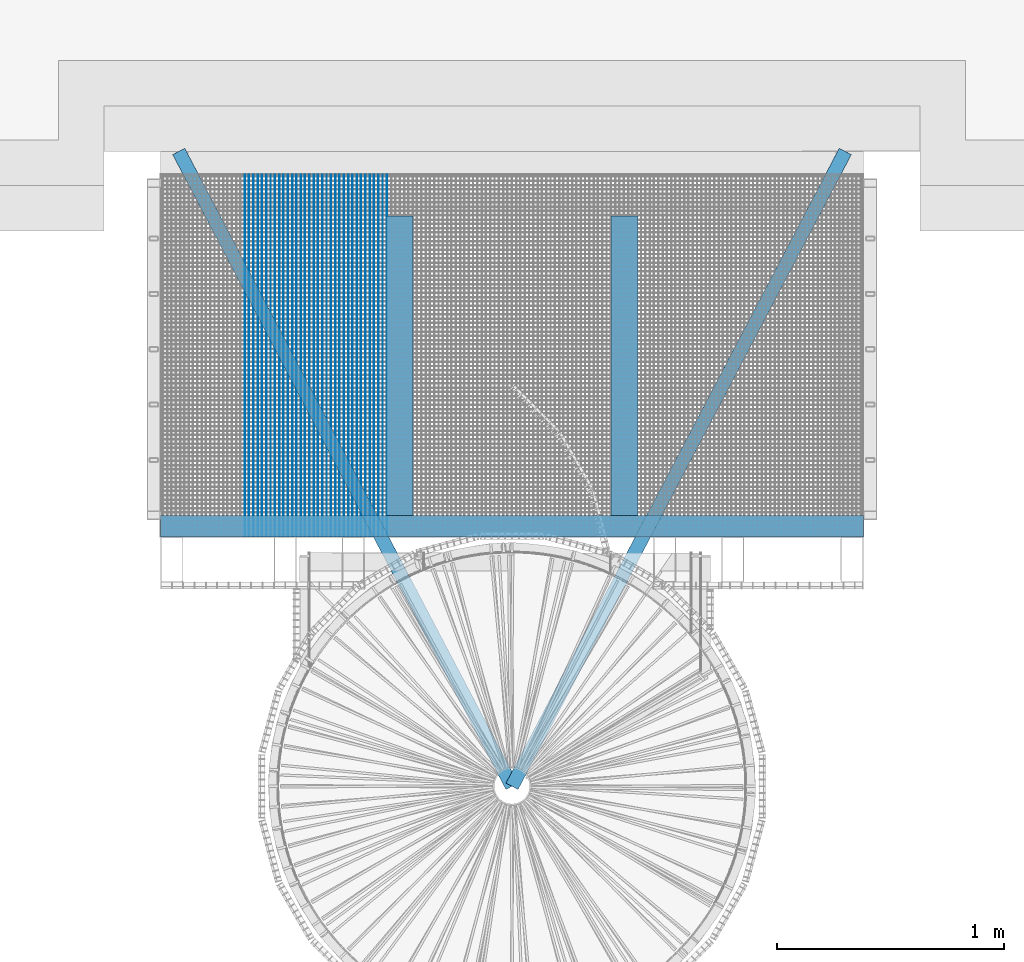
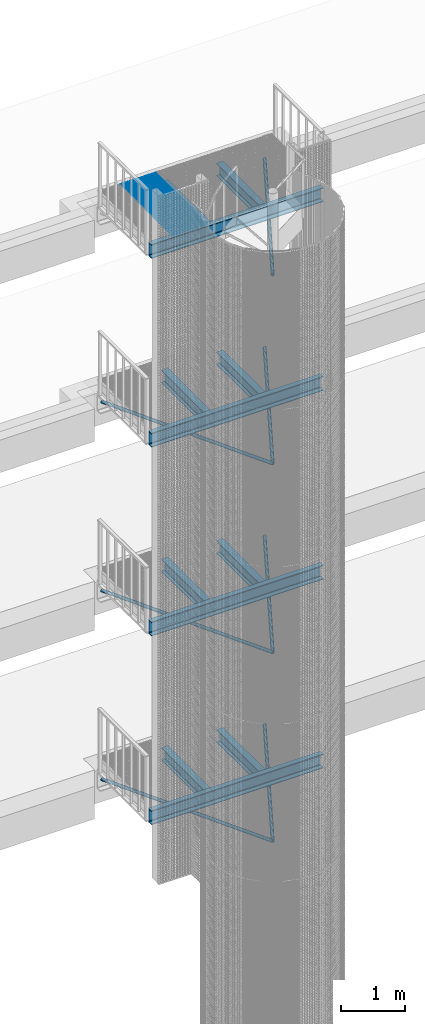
# One storey, part 92 of 1148: 53 beams, 20 elements without a shape of their own.
"""IFC2X3 building model written with IfcOpenShell, lengths in millimetres."""

from ifc_helpers import new_model, si_unit, frame, origin_with_axes, origin_2d_with_axis, place, context, subcontext, project, spatial, rectangle, hollow_circle, i_section, u_section, extrude, material, type_object, element, aggregate, save


model = new_model("IFC2X3")

# Units and contexts
model_context = context("Model", 3, precision=1e-05, world=origin_with_axes())
body_context = subcontext(model_context, "Body", "Model", "MODEL_VIEW")
ifc_project = project(units=[si_unit("LENGTHUNIT", "METRE", prefix="MILLI"), si_unit("AREAUNIT", "SQUARE_METRE"), si_unit("VOLUMEUNIT", "CUBIC_METRE"), si_unit("MASSUNIT", "GRAM", prefix="KILO"), si_unit("TIMEUNIT", "SECOND"), si_unit("PLANEANGLEUNIT", "RADIAN"), si_unit("SOLIDANGLEUNIT", "STERADIAN"), si_unit("THERMODYNAMICTEMPERATUREUNIT", "DEGREE_CELSIUS"), si_unit("LUMINOUSINTENSITYUNIT", "LUMEN")], contexts=[model_context])

# Site, building, storey
site_placement = place(None, origin_with_axes())
site = spatial("IfcSite", under=ifc_project, at=site_placement, Name="Undefined", CompositionType="ELEMENT")
building_placement = place(site_placement, origin_with_axes())
building = spatial("IfcBuilding", under=site, at=building_placement, Name="Undefined", CompositionType="ELEMENT")
storey_placement = place(building_placement, origin_with_axes())
storey = spatial("IfcBuildingStorey", under=building, at=storey_placement, Name="Undefined", CompositionType="ELEMENT", Elevation=0.0)

# Assembly, beams
assembly_1_placement = place(storey_placement, origin_with_axes())
assembly_1 = element("IfcElementAssembly", 1, at=assembly_1_placement, inside=storey, Name="BORDURE", AssemblyPlace="NOTDEFINED", PredefinedType="NOTDEFINED")
ifc_material_1 = material(Name="STEEL/S235JR")
beam_type_1 = type_object("IfcBeamType", Name="PL2*10", PredefinedType="NOTDEFINED")
beam_1_placement = place(assembly_1_placement, frame((20422.1154247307, 1101.99652091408, 17285.0), z_axis=(0.0, 0.0, 1.0), x_axis=(-4.50599999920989e-06, 0.999999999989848, 0.0)))
beam_1 = element("IfcBeam", 2, at=beam_1_placement, type_object=beam_type_1, material=ifc_material_1, Name="ENTRETOISE", context=body_context, shape_type="SweptSolid", body=[
    extrude(rectangle(XDim=2.0, YDim=10.0, at=origin_2d_with_axis()), frame((1596.0000000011, -1.35186458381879e-18, -7.27595761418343e-12), z_axis=(-1.0, 0.0, 0.0), x_axis=(0.0, -1.0, 0.0)), (0.0, 0.0, 1.0), 1596.0),
])
beam_2_placement = place(assembly_1_placement, frame((20441.1154247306, 1101.99661443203, 17285.0), z_axis=(0.0, 0.0, 1.0), x_axis=(-4.50599999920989e-06, 0.999999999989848, 0.0)))
beam_2 = element("IfcBeam", 3, at=beam_2_placement, type_object=beam_type_1, material=ifc_material_1, Name="ENTRETOISE", context=body_context, shape_type="SweptSolid", body=[
    extrude(rectangle(XDim=2.0, YDim=10.0, at=origin_2d_with_axis()), frame((1596.0000000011, -1.35186458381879e-18, -7.27595761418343e-12), z_axis=(-1.0, 0.0, 0.0), x_axis=(0.0, -1.0, 0.0)), (0.0, 0.0, 1.0), 1596.0),
])
beam_3_placement = place(assembly_1_placement, frame((20460.1154247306, 1101.99670794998, 17285.0), z_axis=(0.0, 0.0, 1.0), x_axis=(-4.50599999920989e-06, 0.999999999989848, 0.0)))
beam_3 = element("IfcBeam", 4, at=beam_3_placement, type_object=beam_type_1, material=ifc_material_1, Name="ENTRETOISE", context=body_context, shape_type="SweptSolid", body=[
    extrude(rectangle(XDim=2.0, YDim=10.0, at=origin_2d_with_axis()), frame((1596.0000000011, -1.35186458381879e-18, -7.27595761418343e-12), z_axis=(-1.0, 0.0, 0.0), x_axis=(0.0, -1.0, 0.0)), (0.0, 0.0, 1.0), 1596.0),
])
beam_4_placement = place(assembly_1_placement, frame((20479.1154247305, 1101.99680146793, 17285.0), z_axis=(0.0, 0.0, 1.0), x_axis=(-4.50599999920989e-06, 0.999999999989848, 0.0)))
beam_4 = element("IfcBeam", 5, at=beam_4_placement, type_object=beam_type_1, material=ifc_material_1, Name="ENTRETOISE", context=body_context, shape_type="SweptSolid", body=[
    extrude(rectangle(XDim=2.0, YDim=10.0, at=origin_2d_with_axis()), frame((1596.0000000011, -1.35186458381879e-18, -7.27595761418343e-12), z_axis=(-1.0, 0.0, 0.0), x_axis=(0.0, -1.0, 0.0)), (0.0, 0.0, 1.0), 1596.0),
])
beam_5_placement = place(assembly_1_placement, frame((20498.1154247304, 1101.99689498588, 17285.0), z_axis=(0.0, 0.0, 1.0), x_axis=(-4.50599999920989e-06, 0.999999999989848, 0.0)))
beam_5 = element("IfcBeam", 6, at=beam_5_placement, type_object=beam_type_1, material=ifc_material_1, Name="ENTRETOISE", context=body_context, shape_type="SweptSolid", body=[
    extrude(rectangle(XDim=2.0, YDim=10.0, at=origin_2d_with_axis()), frame((1596.0000000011, -1.35186458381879e-18, -7.27595761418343e-12), z_axis=(-1.0, 0.0, 0.0), x_axis=(0.0, -1.0, 0.0)), (0.0, 0.0, 1.0), 1596.0),
])
beam_6_placement = place(assembly_1_placement, frame((20517.1154247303, 1101.99698850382, 17285.0), z_axis=(0.0, 0.0, 1.0), x_axis=(-4.50599999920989e-06, 0.999999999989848, 0.0)))
beam_6 = element("IfcBeam", 7, at=beam_6_placement, type_object=beam_type_1, material=ifc_material_1, Name="ENTRETOISE", context=body_context, shape_type="SweptSolid", body=[
    extrude(rectangle(XDim=2.0, YDim=10.0, at=origin_2d_with_axis()), frame((1596.0000000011, -1.35186458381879e-18, -7.27595761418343e-12), z_axis=(-1.0, 0.0, 0.0), x_axis=(0.0, -1.0, 0.0)), (0.0, 0.0, 1.0), 1596.0),
])
beam_7_placement = place(assembly_1_placement, frame((20536.1154247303, 1101.99708202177, 17285.0), z_axis=(0.0, 0.0, 1.0), x_axis=(-4.50599999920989e-06, 0.999999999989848, 0.0)))
beam_7 = element("IfcBeam", 8, at=beam_7_placement, type_object=beam_type_1, material=ifc_material_1, Name="ENTRETOISE", context=body_context, shape_type="SweptSolid", body=[
    extrude(rectangle(XDim=2.0, YDim=10.0, at=origin_2d_with_axis()), frame((1596.0000000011, -1.35186458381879e-18, -7.27595761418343e-12), z_axis=(-1.0, 0.0, 0.0), x_axis=(0.0, -1.0, 0.0)), (0.0, 0.0, 1.0), 1596.0),
])
beam_8_placement = place(assembly_1_placement, frame((20555.1154247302, 1101.99717553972, 17285.0), z_axis=(0.0, 0.0, 1.0), x_axis=(-4.50599999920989e-06, 0.999999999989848, 0.0)))
beam_8 = element("IfcBeam", 9, at=beam_8_placement, type_object=beam_type_1, material=ifc_material_1, Name="ENTRETOISE", context=body_context, shape_type="SweptSolid", body=[
    extrude(rectangle(XDim=2.0, YDim=10.0, at=origin_2d_with_axis()), frame((1596.0000000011, -1.35186458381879e-18, -7.27595761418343e-12), z_axis=(-1.0, 0.0, 0.0), x_axis=(0.0, -1.0, 0.0)), (0.0, 0.0, 1.0), 1596.0),
])
beam_9_placement = place(assembly_1_placement, frame((20574.1154247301, 1101.99726905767, 17285.0), z_axis=(0.0, 0.0, 1.0), x_axis=(-4.50599999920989e-06, 0.999999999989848, 0.0)))
beam_9 = element("IfcBeam", 10, at=beam_9_placement, type_object=beam_type_1, material=ifc_material_1, Name="ENTRETOISE", context=body_context, shape_type="SweptSolid", body=[
    extrude(rectangle(XDim=2.0, YDim=10.0, at=origin_2d_with_axis()), frame((1596.0000000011, -1.35186458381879e-18, -7.27595761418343e-12), z_axis=(-1.0, 0.0, 0.0), x_axis=(0.0, -1.0, 0.0)), (0.0, 0.0, 1.0), 1596.0),
])
beam_10_placement = place(assembly_1_placement, frame((20593.1154247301, 1101.99736257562, 17285.0), z_axis=(0.0, 0.0, 1.0), x_axis=(-4.50599999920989e-06, 0.999999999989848, 0.0)))
beam_10 = element("IfcBeam", 11, at=beam_10_placement, type_object=beam_type_1, material=ifc_material_1, Name="ENTRETOISE", context=body_context, shape_type="SweptSolid", body=[
    extrude(rectangle(XDim=2.0, YDim=10.0, at=origin_2d_with_axis()), frame((1596.0000000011, -1.35186458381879e-18, -7.27595761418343e-12), z_axis=(-1.0, 0.0, 0.0), x_axis=(0.0, -1.0, 0.0)), (0.0, 0.0, 1.0), 1596.0),
])
beam_11_placement = place(assembly_1_placement, frame((20612.11542473, 1101.99745609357, 17285.0), z_axis=(0.0, 0.0, 1.0), x_axis=(-4.50599999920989e-06, 0.999999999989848, 0.0)))
beam_11 = element("IfcBeam", 12, at=beam_11_placement, type_object=beam_type_1, material=ifc_material_1, Name="ENTRETOISE", context=body_context, shape_type="SweptSolid", body=[
    extrude(rectangle(XDim=2.0, YDim=10.0, at=origin_2d_with_axis()), frame((1596.0000000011, -1.35186458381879e-18, -7.27595761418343e-12), z_axis=(-1.0, 0.0, 0.0), x_axis=(0.0, -1.0, 0.0)), (0.0, 0.0, 1.0), 1596.0),
])
beam_12_placement = place(assembly_1_placement, frame((20631.1154247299, 1101.99754961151, 17285.0), z_axis=(0.0, 0.0, 1.0), x_axis=(-4.50599999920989e-06, 0.999999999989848, 0.0)))
beam_12 = element("IfcBeam", 13, at=beam_12_placement, type_object=beam_type_1, material=ifc_material_1, Name="ENTRETOISE", context=body_context, shape_type="SweptSolid", body=[
    extrude(rectangle(XDim=2.0, YDim=10.0, at=origin_2d_with_axis()), frame((1596.0000000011, -1.35186458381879e-18, -7.27595761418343e-12), z_axis=(-1.0, 0.0, 0.0), x_axis=(0.0, -1.0, 0.0)), (0.0, 0.0, 1.0), 1596.0),
])
beam_13_placement = place(assembly_1_placement, frame((20650.1154247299, 1101.99764312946, 17285.0), z_axis=(0.0, 0.0, 1.0), x_axis=(-4.50599999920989e-06, 0.999999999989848, 0.0)))
beam_13 = element("IfcBeam", 14, at=beam_13_placement, type_object=beam_type_1, material=ifc_material_1, Name="ENTRETOISE", context=body_context, shape_type="SweptSolid", body=[
    extrude(rectangle(XDim=2.0, YDim=10.0, at=origin_2d_with_axis()), frame((1596.0000000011, -1.35186458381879e-18, -7.27595761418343e-12), z_axis=(-1.0, 0.0, 0.0), x_axis=(0.0, -1.0, 0.0)), (0.0, 0.0, 1.0), 1596.0),
])
beam_14_placement = place(assembly_1_placement, frame((20669.1154247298, 1101.99773664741, 17285.0), z_axis=(0.0, 0.0, 1.0), x_axis=(-4.50599999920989e-06, 0.999999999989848, 0.0)))
beam_14 = element("IfcBeam", 15, at=beam_14_placement, type_object=beam_type_1, material=ifc_material_1, Name="ENTRETOISE", context=body_context, shape_type="SweptSolid", body=[
    extrude(rectangle(XDim=2.0, YDim=10.0, at=origin_2d_with_axis()), frame((1596.0000000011, -1.35186458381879e-18, -7.27595761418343e-12), z_axis=(-1.0, 0.0, 0.0), x_axis=(0.0, -1.0, 0.0)), (0.0, 0.0, 1.0), 1596.0),
])
beam_15_placement = place(assembly_1_placement, frame((20688.1154247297, 1101.99783016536, 17285.0), z_axis=(0.0, 0.0, 1.0), x_axis=(-4.50599999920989e-06, 0.999999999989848, 0.0)))
beam_15 = element("IfcBeam", 16, at=beam_15_placement, type_object=beam_type_1, material=ifc_material_1, Name="ENTRETOISE", context=body_context, shape_type="SweptSolid", body=[
    extrude(rectangle(XDim=2.0, YDim=10.0, at=origin_2d_with_axis()), frame((1596.0000000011, -1.35186458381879e-18, -7.27595761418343e-12), z_axis=(-1.0, 0.0, 0.0), x_axis=(0.0, -1.0, 0.0)), (0.0, 0.0, 1.0), 1596.0),
])
beam_16_placement = place(assembly_1_placement, frame((20707.1154247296, 1101.99792368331, 17285.0), z_axis=(0.0, 0.0, 1.0), x_axis=(-4.50599999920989e-06, 0.999999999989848, 0.0)))
beam_16 = element("IfcBeam", 17, at=beam_16_placement, type_object=beam_type_1, material=ifc_material_1, Name="ENTRETOISE", context=body_context, shape_type="SweptSolid", body=[
    extrude(rectangle(XDim=2.0, YDim=10.0, at=origin_2d_with_axis()), frame((1596.0000000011, -1.35186458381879e-18, -7.27595761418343e-12), z_axis=(-1.0, 0.0, 0.0), x_axis=(0.0, -1.0, 0.0)), (0.0, 0.0, 1.0), 1596.0),
])
beam_17_placement = place(assembly_1_placement, frame((20726.1154247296, 1101.99801720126, 17285.0), z_axis=(0.0, 0.0, 1.0), x_axis=(-4.50599999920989e-06, 0.999999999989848, 0.0)))
beam_17 = element("IfcBeam", 18, at=beam_17_placement, type_object=beam_type_1, material=ifc_material_1, Name="ENTRETOISE", context=body_context, shape_type="SweptSolid", body=[
    extrude(rectangle(XDim=2.0, YDim=10.0, at=origin_2d_with_axis()), frame((1596.0000000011, -1.35186458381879e-18, -7.27595761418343e-12), z_axis=(-1.0, 0.0, 0.0), x_axis=(0.0, -1.0, 0.0)), (0.0, 0.0, 1.0), 1596.0),
])
beam_18_placement = place(assembly_1_placement, frame((20745.1154247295, 1101.99811071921, 17285.0), z_axis=(0.0, 0.0, 1.0), x_axis=(-4.50599999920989e-06, 0.999999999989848, 0.0)))
beam_18 = element("IfcBeam", 19, at=beam_18_placement, type_object=beam_type_1, material=ifc_material_1, Name="ENTRETOISE", context=body_context, shape_type="SweptSolid", body=[
    extrude(rectangle(XDim=2.0, YDim=10.0, at=origin_2d_with_axis()), frame((1596.0000000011, -1.35186458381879e-18, -7.27595761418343e-12), z_axis=(-1.0, 0.0, 0.0), x_axis=(0.0, -1.0, 0.0)), (0.0, 0.0, 1.0), 1596.0),
])
beam_19_placement = place(assembly_1_placement, frame((20764.1154247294, 1101.99820423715, 17285.0), z_axis=(0.0, 0.0, 1.0), x_axis=(-4.50599999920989e-06, 0.999999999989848, 0.0)))
beam_19 = element("IfcBeam", 20, at=beam_19_placement, type_object=beam_type_1, material=ifc_material_1, Name="ENTRETOISE", context=body_context, shape_type="SweptSolid", body=[
    extrude(rectangle(XDim=2.0, YDim=10.0, at=origin_2d_with_axis()), frame((1596.0000000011, -1.35186458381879e-18, -7.27595761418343e-12), z_axis=(-1.0, 0.0, 0.0), x_axis=(0.0, -1.0, 0.0)), (0.0, 0.0, 1.0), 1596.0),
])
beam_20_placement = place(assembly_1_placement, frame((20783.1154247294, 1101.9982977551, 17285.0), z_axis=(0.0, 0.0, 1.0), x_axis=(-4.50599999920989e-06, 0.999999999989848, 0.0)))
beam_20 = element("IfcBeam", 21, at=beam_20_placement, type_object=beam_type_1, material=ifc_material_1, Name="ENTRETOISE", context=body_context, shape_type="SweptSolid", body=[
    extrude(rectangle(XDim=2.0, YDim=10.0, at=origin_2d_with_axis()), frame((1596.0000000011, -1.35186458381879e-18, -7.27595761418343e-12), z_axis=(-1.0, 0.0, 0.0), x_axis=(0.0, -1.0, 0.0)), (0.0, 0.0, 1.0), 1596.0),
])
beam_21_placement = place(assembly_1_placement, frame((20802.1154247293, 1101.99839127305, 17285.0), z_axis=(0.0, 0.0, 1.0), x_axis=(-4.50599999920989e-06, 0.999999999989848, 0.0)))
beam_21 = element("IfcBeam", 22, at=beam_21_placement, type_object=beam_type_1, material=ifc_material_1, Name="ENTRETOISE", context=body_context, shape_type="SweptSolid", body=[
    extrude(rectangle(XDim=2.0, YDim=10.0, at=origin_2d_with_axis()), frame((1596.0000000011, -1.35186458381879e-18, -7.27595761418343e-12), z_axis=(-1.0, 0.0, 0.0), x_axis=(0.0, -1.0, 0.0)), (0.0, 0.0, 1.0), 1596.0),
])
beam_22_placement = place(assembly_1_placement, frame((20821.1154247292, 1101.998484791, 17285.0), z_axis=(0.0, 0.0, 1.0), x_axis=(-4.50599999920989e-06, 0.999999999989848, 0.0)))
beam_22 = element("IfcBeam", 23, at=beam_22_placement, type_object=beam_type_1, material=ifc_material_1, Name="ENTRETOISE", context=body_context, shape_type="SweptSolid", body=[
    extrude(rectangle(XDim=2.0, YDim=10.0, at=origin_2d_with_axis()), frame((1596.0000000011, -1.35186458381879e-18, -7.27595761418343e-12), z_axis=(-1.0, 0.0, 0.0), x_axis=(0.0, -1.0, 0.0)), (0.0, 0.0, 1.0), 1596.0),
])
beam_23_placement = place(assembly_1_placement, frame((20840.1154247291, 1101.99857830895, 17285.0), z_axis=(0.0, 0.0, 1.0), x_axis=(-4.50599999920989e-06, 0.999999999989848, 0.0)))
beam_23 = element("IfcBeam", 24, at=beam_23_placement, type_object=beam_type_1, material=ifc_material_1, Name="ENTRETOISE", context=body_context, shape_type="SweptSolid", body=[
    extrude(rectangle(XDim=2.0, YDim=10.0, at=origin_2d_with_axis()), frame((1596.0000000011, -1.35186458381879e-18, -7.27595761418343e-12), z_axis=(-1.0, 0.0, 0.0), x_axis=(0.0, -1.0, 0.0)), (0.0, 0.0, 1.0), 1596.0),
])
beam_24_placement = place(assembly_1_placement, frame((20859.1154247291, 1101.9986718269, 17285.0), z_axis=(0.0, 0.0, 1.0), x_axis=(-4.50599999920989e-06, 0.999999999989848, 0.0)))
beam_24 = element("IfcBeam", 25, at=beam_24_placement, type_object=beam_type_1, material=ifc_material_1, Name="ENTRETOISE", context=body_context, shape_type="SweptSolid", body=[
    extrude(rectangle(XDim=2.0, YDim=10.0, at=origin_2d_with_axis()), frame((1596.0000000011, -1.35186458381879e-18, -7.27595761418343e-12), z_axis=(-1.0, 0.0, 0.0), x_axis=(0.0, -1.0, 0.0)), (0.0, 0.0, 1.0), 1596.0),
])
beam_25_placement = place(assembly_1_placement, frame((20878.115424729, 1101.99876534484, 17285.0), z_axis=(0.0, 0.0, 1.0), x_axis=(-4.50599999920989e-06, 0.999999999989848, 0.0)))
beam_25 = element("IfcBeam", 26, at=beam_25_placement, type_object=beam_type_1, material=ifc_material_1, Name="ENTRETOISE", context=body_context, shape_type="SweptSolid", body=[
    extrude(rectangle(XDim=2.0, YDim=10.0, at=origin_2d_with_axis()), frame((1596.0000000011, -1.35186458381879e-18, -7.27595761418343e-12), z_axis=(-1.0, 0.0, 0.0), x_axis=(0.0, -1.0, 0.0)), (0.0, 0.0, 1.0), 1596.0),
])
beam_26_placement = place(assembly_1_placement, frame((20897.1154247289, 1101.99885886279, 17285.0), z_axis=(0.0, 0.0, 1.0), x_axis=(-4.50599999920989e-06, 0.999999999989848, 0.0)))
beam_26 = element("IfcBeam", 27, at=beam_26_placement, type_object=beam_type_1, material=ifc_material_1, Name="ENTRETOISE", context=body_context, shape_type="SweptSolid", body=[
    extrude(rectangle(XDim=2.0, YDim=10.0, at=origin_2d_with_axis()), frame((1596.0000000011, -1.35186458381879e-18, -7.27595761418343e-12), z_axis=(-1.0, 0.0, 0.0), x_axis=(0.0, -1.0, 0.0)), (0.0, 0.0, 1.0), 1596.0),
])
beam_27_placement = place(assembly_1_placement, frame((20916.1154247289, 1101.99895238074, 17285.0), z_axis=(0.0, 0.0, 1.0), x_axis=(-4.50599999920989e-06, 0.999999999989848, 0.0)))
beam_27 = element("IfcBeam", 28, at=beam_27_placement, type_object=beam_type_1, material=ifc_material_1, Name="ENTRETOISE", context=body_context, shape_type="SweptSolid", body=[
    extrude(rectangle(XDim=2.0, YDim=10.0, at=origin_2d_with_axis()), frame((1596.0000000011, -1.35186458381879e-18, -7.27595761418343e-12), z_axis=(-1.0, 0.0, 0.0), x_axis=(0.0, -1.0, 0.0)), (0.0, 0.0, 1.0), 1596.0),
])
beam_28_placement = place(assembly_1_placement, frame((20935.1154247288, 1101.99904589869, 17285.0), z_axis=(0.0, 0.0, 1.0), x_axis=(-4.50599999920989e-06, 0.999999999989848, 0.0)))
beam_28 = element("IfcBeam", 29, at=beam_28_placement, type_object=beam_type_1, material=ifc_material_1, Name="ENTRETOISE", context=body_context, shape_type="SweptSolid", body=[
    extrude(rectangle(XDim=2.0, YDim=10.0, at=origin_2d_with_axis()), frame((1596.0000000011, -1.35186458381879e-18, -7.27595761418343e-12), z_axis=(-1.0, 0.0, 0.0), x_axis=(0.0, -1.0, 0.0)), (0.0, 0.0, 1.0), 1596.0),
])
beam_29_placement = place(assembly_1_placement, frame((20954.1154247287, 1101.99913941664, 17285.0), z_axis=(0.0, 0.0, 1.0), x_axis=(-4.50599999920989e-06, 0.999999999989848, 0.0)))
beam_29 = element("IfcBeam", 30, at=beam_29_placement, type_object=beam_type_1, material=ifc_material_1, Name="ENTRETOISE", context=body_context, shape_type="SweptSolid", body=[
    extrude(rectangle(XDim=2.0, YDim=10.0, at=origin_2d_with_axis()), frame((1596.0000000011, -1.35186458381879e-18, -7.27595761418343e-12), z_axis=(-1.0, 0.0, 0.0), x_axis=(0.0, -1.0, 0.0)), (0.0, 0.0, 1.0), 1596.0),
])
beam_30_placement = place(assembly_1_placement, frame((20973.1154247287, 1101.99923293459, 17285.0), z_axis=(0.0, 0.0, 1.0), x_axis=(-4.50599999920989e-06, 0.999999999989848, 0.0)))
beam_30 = element("IfcBeam", 31, at=beam_30_placement, type_object=beam_type_1, material=ifc_material_1, Name="ENTRETOISE", context=body_context, shape_type="SweptSolid", body=[
    extrude(rectangle(XDim=2.0, YDim=10.0, at=origin_2d_with_axis()), frame((1596.0000000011, -1.35186458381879e-18, -7.27595761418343e-12), z_axis=(-1.0, 0.0, 0.0), x_axis=(0.0, -1.0, 0.0)), (0.0, 0.0, 1.0), 1596.0),
])
beam_31_placement = place(assembly_1_placement, frame((20992.1154247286, 1101.99932645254, 17285.0), z_axis=(0.0, 0.0, 1.0), x_axis=(-4.50599999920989e-06, 0.999999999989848, 0.0)))
beam_31 = element("IfcBeam", 32, at=beam_31_placement, type_object=beam_type_1, material=ifc_material_1, Name="ENTRETOISE", context=body_context, shape_type="SweptSolid", body=[
    extrude(rectangle(XDim=2.0, YDim=10.0, at=origin_2d_with_axis()), frame((1596.0000000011, -1.35186458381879e-18, -7.27595761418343e-12), z_axis=(-1.0, 0.0, 0.0), x_axis=(0.0, -1.0, 0.0)), (0.0, 0.0, 1.0), 1596.0),
])
beam_32_placement = place(assembly_1_placement, frame((21011.1154247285, 1101.99941997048, 17285.0), z_axis=(0.0, 0.0, 1.0), x_axis=(-4.50599999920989e-06, 0.999999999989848, 0.0)))
beam_32 = element("IfcBeam", 33, at=beam_32_placement, type_object=beam_type_1, material=ifc_material_1, Name="ENTRETOISE", context=body_context, shape_type="SweptSolid", body=[
    extrude(rectangle(XDim=2.0, YDim=10.0, at=origin_2d_with_axis()), frame((1596.0000000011, -1.35186458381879e-18, -7.27595761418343e-12), z_axis=(-1.0, 0.0, 0.0), x_axis=(0.0, -1.0, 0.0)), (0.0, 0.0, 1.0), 1596.0),
])
beam_33_placement = place(assembly_1_placement, frame((21030.1154247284, 1101.99951348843, 17285.0), z_axis=(0.0, 0.0, 1.0), x_axis=(-4.50599999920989e-06, 0.999999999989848, 0.0)))
beam_33 = element("IfcBeam", 34, at=beam_33_placement, type_object=beam_type_1, material=ifc_material_1, Name="ENTRETOISE", context=body_context, shape_type="SweptSolid", body=[
    extrude(rectangle(XDim=2.0, YDim=10.0, at=origin_2d_with_axis()), frame((1596.0000000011, -1.35186458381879e-18, -7.27595761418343e-12), z_axis=(-1.0, 0.0, 0.0), x_axis=(0.0, -1.0, 0.0)), (0.0, 0.0, 1.0), 1596.0),
])
beam_34_placement = place(assembly_1_placement, frame((21049.1154247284, 1101.99960700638, 17285.0), z_axis=(0.0, 0.0, 1.0), x_axis=(-4.50599999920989e-06, 0.999999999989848, 0.0)))
beam_34 = element("IfcBeam", 35, at=beam_34_placement, type_object=beam_type_1, material=ifc_material_1, Name="ENTRETOISE", context=body_context, shape_type="SweptSolid", body=[
    extrude(rectangle(XDim=2.0, YDim=10.0, at=origin_2d_with_axis()), frame((1596.0000000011, -1.35186458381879e-18, -7.27595761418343e-12), z_axis=(-1.0, 0.0, 0.0), x_axis=(0.0, -1.0, 0.0)), (0.0, 0.0, 1.0), 1596.0),
])
aggregate(assembly_1, [beam_1, beam_2, beam_3, beam_4, beam_5, beam_6, beam_7, beam_8, beam_9, beam_10, beam_11, beam_12, beam_13, beam_14, beam_15, beam_16, beam_17, beam_18, beam_19, beam_20, beam_21, beam_22, beam_23, beam_24, beam_25, beam_26, beam_27, beam_28, beam_29, beam_30, beam_31, beam_32, beam_33, beam_34])

# Assembly, beam
assembly_2_placement = place(storey_placement, origin_with_axes())
assembly_2 = element("IfcElementAssembly", 36, at=assembly_2_placement, inside=storey, AssemblyPlace="NOTDEFINED", PredefinedType="NOTDEFINED")
ifc_material_2 = material(Name="STEEL/S275JR")
beam_type_2 = type_object("IfcBeamType", Name="TUBE-60.3*5", PredefinedType="NOTDEFINED")
beam_35_placement = place(assembly_2_placement, frame((21600.0399999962, -0.239999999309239, 16790.0), z_axis=(0.0, 0.0, 1.0), x_axis=(0.464816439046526, 0.885407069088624, 0.0)))
beam_35 = element("IfcBeam", 37, at=beam_35_placement, type_object=beam_type_2, material=ifc_material_2, Name="BUTON", context=body_context, shape_type="SweptSolid", body=[
    extrude(hollow_circle(Radius=30.14999962, WallThickness=5.0, at=origin_2d_with_axis()), frame((3162.38211154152, 0.0, 0.0), z_axis=(-1.0, 0.0, 0.0), x_axis=(0.0, -1.0, 0.0)), (0.0, 0.0, 1.0), 3162.38),
])
aggregate(assembly_2, [beam_35])

assembly_3_placement = place(storey_placement, origin_with_axes())
assembly_3 = element("IfcElementAssembly", 38, at=assembly_3_placement, inside=storey, AssemblyPlace="NOTDEFINED", PredefinedType="NOTDEFINED")
beam_36_placement = place(assembly_3_placement, frame((21600.0399999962, -0.159999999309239, 13190.0), z_axis=(0.0, 0.0, 1.0), x_axis=(0.464816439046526, 0.885407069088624, 0.0)))
beam_36 = element("IfcBeam", 39, at=beam_36_placement, type_object=beam_type_2, material=ifc_material_2, Name="BUTON", context=body_context, shape_type="SweptSolid", body=[
    extrude(hollow_circle(Radius=30.14999962, WallThickness=5.0, at=origin_2d_with_axis()), frame((3162.38211154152, 0.0, 0.0), z_axis=(-1.0, 0.0, 0.0), x_axis=(0.0, -1.0, 0.0)), (0.0, 0.0, 1.0), 3162.38),
])
aggregate(assembly_3, [beam_36])

assembly_4_placement = place(storey_placement, origin_with_axes())
assembly_4 = element("IfcElementAssembly", 40, at=assembly_4_placement, inside=storey, AssemblyPlace="NOTDEFINED", PredefinedType="NOTDEFINED")
beam_37_placement = place(assembly_4_placement, frame((21600.0399999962, -0.159999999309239, 13190.0), z_axis=(0.0, 0.0, 1.0), x_axis=(-0.464816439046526, 0.885407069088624, 0.0)))
beam_37 = element("IfcBeam", 41, at=beam_37_placement, type_object=beam_type_2, material=ifc_material_2, Name="BUTON", context=body_context, shape_type="SweptSolid", body=[
    extrude(hollow_circle(Radius=30.14999962, WallThickness=5.0, at=origin_2d_with_axis()), frame((3162.38211154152, 0.0, 0.0), z_axis=(-1.0, 0.0, 0.0), x_axis=(0.0, -1.0, 0.0)), (0.0, 0.0, 1.0), 3162.38),
])
aggregate(assembly_4, [beam_37])

assembly_5_placement = place(storey_placement, origin_with_axes())
assembly_5 = element("IfcElementAssembly", 42, at=assembly_5_placement, inside=storey, AssemblyPlace="NOTDEFINED", PredefinedType="NOTDEFINED")
beam_38_placement = place(assembly_5_placement, frame((21600.0399999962, -0.0799999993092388, 9590.0), z_axis=(0.0, 0.0, 1.0), x_axis=(0.464816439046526, 0.885407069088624, 0.0)))
beam_38 = element("IfcBeam", 43, at=beam_38_placement, type_object=beam_type_2, material=ifc_material_2, Name="BUTON", context=body_context, shape_type="SweptSolid", body=[
    extrude(hollow_circle(Radius=30.14999962, WallThickness=5.0, at=origin_2d_with_axis()), frame((3162.38211154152, 0.0, 0.0), z_axis=(-1.0, 0.0, 0.0), x_axis=(0.0, -1.0, 0.0)), (0.0, 0.0, 1.0), 3162.38),
])
aggregate(assembly_5, [beam_38])

assembly_6_placement = place(storey_placement, origin_with_axes())
assembly_6 = element("IfcElementAssembly", 44, at=assembly_6_placement, inside=storey, AssemblyPlace="NOTDEFINED", PredefinedType="NOTDEFINED")
beam_39_placement = place(assembly_6_placement, frame((21600.0399999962, -0.0799999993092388, 9590.0), z_axis=(0.0, 0.0, 1.0), x_axis=(-0.464816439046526, 0.885407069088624, 0.0)))
beam_39 = element("IfcBeam", 45, at=beam_39_placement, type_object=beam_type_2, material=ifc_material_2, Name="BUTON", context=body_context, shape_type="SweptSolid", body=[
    extrude(hollow_circle(Radius=30.14999962, WallThickness=5.0, at=origin_2d_with_axis()), frame((3162.38211154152, 0.0, 0.0), z_axis=(-1.0, 0.0, 0.0), x_axis=(0.0, -1.0, 0.0)), (0.0, 0.0, 1.0), 3162.38),
])
aggregate(assembly_6, [beam_39])

assembly_7_placement = place(storey_placement, origin_with_axes())
assembly_7 = element("IfcElementAssembly", 46, at=assembly_7_placement, inside=storey, AssemblyPlace="NOTDEFINED", PredefinedType="NOTDEFINED")
beam_40_placement = place(assembly_7_placement, frame((21600.0399999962, 6.90761225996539e-10, 5990.0), z_axis=(0.0, 0.0, 1.0), x_axis=(0.464816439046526, 0.885407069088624, 0.0)))
beam_40 = element("IfcBeam", 47, at=beam_40_placement, type_object=beam_type_2, material=ifc_material_2, Name="BUTON", context=body_context, shape_type="SweptSolid", body=[
    extrude(hollow_circle(Radius=30.14999962, WallThickness=5.0, at=origin_2d_with_axis()), frame((3162.38211154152, 0.0, 0.0), z_axis=(-1.0, 0.0, 0.0), x_axis=(0.0, -1.0, 0.0)), (0.0, 0.0, 1.0), 3162.38),
])
aggregate(assembly_7, [beam_40])

assembly_8_placement = place(storey_placement, origin_with_axes())
assembly_8 = element("IfcElementAssembly", 48, at=assembly_8_placement, inside=storey, AssemblyPlace="NOTDEFINED", PredefinedType="NOTDEFINED")
beam_41_placement = place(assembly_8_placement, frame((21600.0399999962, 6.90761225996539e-10, 5990.0), z_axis=(0.0, 0.0, 1.0), x_axis=(-0.464816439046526, 0.885407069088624, 0.0)))
beam_41 = element("IfcBeam", 49, at=beam_41_placement, type_object=beam_type_2, material=ifc_material_2, Name="BUTON", context=body_context, shape_type="SweptSolid", body=[
    extrude(hollow_circle(Radius=30.14999962, WallThickness=5.0, at=origin_2d_with_axis()), frame((3162.38211154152, 0.0, 0.0), z_axis=(-1.0, 0.0, 0.0), x_axis=(0.0, -1.0, 0.0)), (0.0, 0.0, 1.0), 3162.38),
])
aggregate(assembly_8, [beam_41])

assembly_9_placement = place(storey_placement, origin_with_axes())
assembly_9 = element("IfcElementAssembly", 50, at=assembly_9_placement, inside=storey, AssemblyPlace="NOTDEFINED", PredefinedType="NOTDEFINED")
beam_type_3 = type_object("IfcBeamType", Name="IPE240", PredefinedType="NOTDEFINED")
beam_42_placement = place(assembly_9_placement, frame((21103.4504345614, 1195.00994809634, 17120.0), z_axis=(0.0, 0.0, 1.0), x_axis=(-4.50599999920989e-06, 0.999999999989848, 0.0)))
beam_42 = element("IfcBeam", 51, at=beam_42_placement, type_object=beam_type_3, material=ifc_material_1, Name="EXISTANTS", context=body_context, shape_type="SweptSolid", body=[
    extrude(i_section(OverallWidth=120.0, OverallDepth=240.0, WebThickness=6.199999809, FlangeThickness=9.800000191, FilletRadius=15.0, at=origin_2d_with_axis()), frame((1319.99832798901, 0.0, -3.63797880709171e-12), z_axis=(-1.0, 0.0, 0.0), x_axis=(0.0, -1.0, 0.0)), (0.0, 0.0, 1.0), 1320.0),
])
aggregate(assembly_9, [beam_42])

assembly_10_placement = place(storey_placement, origin_with_axes())
assembly_10 = element("IfcElementAssembly", 52, at=assembly_10_placement, inside=storey, AssemblyPlace="NOTDEFINED", PredefinedType="NOTDEFINED")
beam_43_placement = place(assembly_10_placement, frame((22096.7804345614, 1195.00994809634, 17120.0), z_axis=(0.0, 0.0, 1.0), x_axis=(-4.50599999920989e-06, 0.999999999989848, 0.0)))
beam_43 = element("IfcBeam", 53, at=beam_43_placement, type_object=beam_type_3, material=ifc_material_1, Name="EXISTANTS", context=body_context, shape_type="SweptSolid", body=[
    extrude(i_section(OverallWidth=120.0, OverallDepth=240.0, WebThickness=6.199999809, FlangeThickness=9.800000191, FilletRadius=15.0, at=origin_2d_with_axis()), frame((1319.99832798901, 0.0, -3.63797880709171e-12), z_axis=(-1.0, 0.0, 0.0), x_axis=(0.0, -1.0, 0.0)), (0.0, 0.0, 1.0), 1320.0),
])
aggregate(assembly_10, [beam_43])

assembly_11_placement = place(storey_placement, origin_with_axes())
assembly_11 = element("IfcElementAssembly", 54, at=assembly_11_placement, inside=storey, AssemblyPlace="NOTDEFINED", PredefinedType="NOTDEFINED")
beam_44_placement = place(assembly_11_placement, frame((21103.4504345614, 1195.00994809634, 13520.0), z_axis=(0.0, 0.0, 1.0), x_axis=(-4.50599999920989e-06, 0.999999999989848, 0.0)))
beam_44 = element("IfcBeam", 55, at=beam_44_placement, type_object=beam_type_3, material=ifc_material_1, Name="EXISTANTS", context=body_context, shape_type="SweptSolid", body=[
    extrude(i_section(OverallWidth=120.0, OverallDepth=240.0, WebThickness=6.199999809, FlangeThickness=9.800000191, FilletRadius=15.0, at=origin_2d_with_axis()), frame((1319.99832798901, 0.0, -3.63797880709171e-12), z_axis=(-1.0, 0.0, 0.0), x_axis=(0.0, -1.0, 0.0)), (0.0, 0.0, 1.0), 1320.0),
])
aggregate(assembly_11, [beam_44])

assembly_12_placement = place(storey_placement, origin_with_axes())
assembly_12 = element("IfcElementAssembly", 56, at=assembly_12_placement, inside=storey, AssemblyPlace="NOTDEFINED", PredefinedType="NOTDEFINED")
beam_45_placement = place(assembly_12_placement, frame((22096.7804345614, 1195.00994809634, 13520.0), z_axis=(0.0, 0.0, 1.0), x_axis=(-4.50599999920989e-06, 0.999999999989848, 0.0)))
beam_45 = element("IfcBeam", 57, at=beam_45_placement, type_object=beam_type_3, material=ifc_material_1, Name="EXISTANTS", context=body_context, shape_type="SweptSolid", body=[
    extrude(i_section(OverallWidth=120.0, OverallDepth=240.0, WebThickness=6.199999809, FlangeThickness=9.800000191, FilletRadius=15.0, at=origin_2d_with_axis()), frame((1319.99832798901, 0.0, -3.63797880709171e-12), z_axis=(-1.0, 0.0, 0.0), x_axis=(0.0, -1.0, 0.0)), (0.0, 0.0, 1.0), 1320.0),
])
aggregate(assembly_12, [beam_45])

assembly_13_placement = place(storey_placement, origin_with_axes())
assembly_13 = element("IfcElementAssembly", 58, at=assembly_13_placement, inside=storey, AssemblyPlace="NOTDEFINED", PredefinedType="NOTDEFINED")
beam_46_placement = place(assembly_13_placement, frame((21103.4504345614, 1195.00994809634, 9920.0), z_axis=(0.0, 0.0, 1.0), x_axis=(-4.50599999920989e-06, 0.999999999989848, 0.0)))
beam_46 = element("IfcBeam", 59, at=beam_46_placement, type_object=beam_type_3, material=ifc_material_1, Name="EXISTANTS", context=body_context, shape_type="SweptSolid", body=[
    extrude(i_section(OverallWidth=120.0, OverallDepth=240.0, WebThickness=6.199999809, FlangeThickness=9.800000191, FilletRadius=15.0, at=origin_2d_with_axis()), frame((1319.99832798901, 0.0, -3.63797880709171e-12), z_axis=(-1.0, 0.0, 0.0), x_axis=(0.0, -1.0, 0.0)), (0.0, 0.0, 1.0), 1320.0),
])
aggregate(assembly_13, [beam_46])

assembly_14_placement = place(storey_placement, origin_with_axes())
assembly_14 = element("IfcElementAssembly", 60, at=assembly_14_placement, inside=storey, AssemblyPlace="NOTDEFINED", PredefinedType="NOTDEFINED")
beam_47_placement = place(assembly_14_placement, frame((22096.7804345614, 1195.00994809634, 9920.0), z_axis=(0.0, 0.0, 1.0), x_axis=(-4.50599999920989e-06, 0.999999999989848, 0.0)))
beam_47 = element("IfcBeam", 61, at=beam_47_placement, type_object=beam_type_3, material=ifc_material_1, Name="EXISTANTS", context=body_context, shape_type="SweptSolid", body=[
    extrude(i_section(OverallWidth=120.0, OverallDepth=240.0, WebThickness=6.199999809, FlangeThickness=9.800000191, FilletRadius=15.0, at=origin_2d_with_axis()), frame((1319.99832798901, 0.0, -3.63797880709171e-12), z_axis=(-1.0, 0.0, 0.0), x_axis=(0.0, -1.0, 0.0)), (0.0, 0.0, 1.0), 1320.0),
])
aggregate(assembly_14, [beam_47])

assembly_15_placement = place(storey_placement, origin_with_axes())
assembly_15 = element("IfcElementAssembly", 62, at=assembly_15_placement, inside=storey, AssemblyPlace="NOTDEFINED", PredefinedType="NOTDEFINED")
beam_48_placement = place(assembly_15_placement, frame((21103.4504345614, 1195.00994809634, 6320.0), z_axis=(0.0, 0.0, 1.0), x_axis=(-4.50599999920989e-06, 0.999999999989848, 0.0)))
beam_48 = element("IfcBeam", 63, at=beam_48_placement, type_object=beam_type_3, material=ifc_material_1, Name="EXISTANTS", context=body_context, shape_type="SweptSolid", body=[
    extrude(i_section(OverallWidth=120.0, OverallDepth=240.0, WebThickness=6.199999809, FlangeThickness=9.800000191, FilletRadius=15.0, at=origin_2d_with_axis()), frame((1319.99832798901, 0.0, -3.63797880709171e-12), z_axis=(-1.0, 0.0, 0.0), x_axis=(0.0, -1.0, 0.0)), (0.0, 0.0, 1.0), 1320.0),
])
aggregate(assembly_15, [beam_48])

assembly_16_placement = place(storey_placement, origin_with_axes())
assembly_16 = element("IfcElementAssembly", 64, at=assembly_16_placement, inside=storey, AssemblyPlace="NOTDEFINED", PredefinedType="NOTDEFINED")
beam_49_placement = place(assembly_16_placement, frame((22096.7804345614, 1195.00994809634, 6320.0), z_axis=(0.0, 0.0, 1.0), x_axis=(-4.50599999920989e-06, 0.999999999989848, 0.0)))
beam_49 = element("IfcBeam", 65, at=beam_49_placement, type_object=beam_type_3, material=ifc_material_1, Name="EXISTANTS", context=body_context, shape_type="SweptSolid", body=[
    extrude(i_section(OverallWidth=120.0, OverallDepth=240.0, WebThickness=6.199999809, FlangeThickness=9.800000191, FilletRadius=15.0, at=origin_2d_with_axis()), frame((1319.99832798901, 0.0, -3.63797880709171e-12), z_axis=(-1.0, 0.0, 0.0), x_axis=(0.0, -1.0, 0.0)), (0.0, 0.0, 1.0), 1320.0),
])
aggregate(assembly_16, [beam_49])

assembly_17_placement = place(storey_placement, origin_with_axes())
assembly_17 = element("IfcElementAssembly", 66, at=assembly_17_placement, inside=storey, AssemblyPlace="NOTDEFINED", PredefinedType="NOTDEFINED")
beam_type_4 = type_object("IfcBeamType", Name="UPE270", PredefinedType="NOTDEFINED")
beam_50_placement = place(assembly_17_placement, frame((20050.119356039, 1147.49468994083, 17105.0), z_axis=(0.0, 0.0, 1.0), x_axis=(0.999999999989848, 4.50600000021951e-06, 0.0)))
beam_50 = element("IfcBeam", 67, at=beam_50_placement, type_object=beam_type_4, material=ifc_material_1, Name="EXISTANTS", context=body_context, shape_type="SweptSolid", body=[
    extrude(u_section(Depth=270.0, FlangeWidth=95.0, WebThickness=7.5, FlangeThickness=13.5, FilletRadius=15.0, at=origin_2d_with_axis()), frame((3099.99084151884, -4.54747022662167e-13, 3.63797880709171e-12), z_axis=(-1.0, 0.0, 0.0), x_axis=(0.0, -1.0, 0.0)), (0.0, 0.0, 1.0), 3099.99),
])
aggregate(assembly_17, [beam_50])

assembly_18_placement = place(storey_placement, origin_with_axes())
assembly_18 = element("IfcElementAssembly", 68, at=assembly_18_placement, inside=storey, AssemblyPlace="NOTDEFINED", PredefinedType="NOTDEFINED")
beam_51_placement = place(assembly_18_placement, frame((20050.119356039, 1147.49468994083, 13505.0), z_axis=(0.0, 0.0, 1.0), x_axis=(0.999999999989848, 4.50600000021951e-06, 0.0)))
beam_51 = element("IfcBeam", 69, at=beam_51_placement, type_object=beam_type_4, material=ifc_material_1, Name="EXISTANTS", context=body_context, shape_type="SweptSolid", body=[
    extrude(u_section(Depth=270.0, FlangeWidth=95.0, WebThickness=7.5, FlangeThickness=13.5, FilletRadius=15.0, at=origin_2d_with_axis()), frame((3099.99084151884, -4.54747022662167e-13, 3.63797880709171e-12), z_axis=(-1.0, 0.0, 0.0), x_axis=(0.0, -1.0, 0.0)), (0.0, 0.0, 1.0), 3099.99),
])
aggregate(assembly_18, [beam_51])

assembly_19_placement = place(storey_placement, origin_with_axes())
assembly_19 = element("IfcElementAssembly", 70, at=assembly_19_placement, inside=storey, AssemblyPlace="NOTDEFINED", PredefinedType="NOTDEFINED")
beam_52_placement = place(assembly_19_placement, frame((20050.119356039, 1147.49468994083, 9905.0), z_axis=(0.0, 0.0, 1.0), x_axis=(0.999999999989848, 4.50600000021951e-06, 0.0)))
beam_52 = element("IfcBeam", 71, at=beam_52_placement, type_object=beam_type_4, material=ifc_material_1, Name="EXISTANTS", context=body_context, shape_type="SweptSolid", body=[
    extrude(u_section(Depth=270.0, FlangeWidth=95.0, WebThickness=7.5, FlangeThickness=13.5, FilletRadius=15.0, at=origin_2d_with_axis()), frame((3099.99084151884, -4.54747022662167e-13, 3.63797880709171e-12), z_axis=(-1.0, 0.0, 0.0), x_axis=(0.0, -1.0, 0.0)), (0.0, 0.0, 1.0), 3099.99),
])
aggregate(assembly_19, [beam_52])

assembly_20_placement = place(storey_placement, origin_with_axes())
assembly_20 = element("IfcElementAssembly", 72, at=assembly_20_placement, inside=storey, AssemblyPlace="NOTDEFINED", PredefinedType="NOTDEFINED")
beam_53_placement = place(assembly_20_placement, frame((20050.119356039, 1147.49468994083, 6305.0), z_axis=(0.0, 0.0, 1.0), x_axis=(0.999999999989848, 4.50600000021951e-06, 0.0)))
beam_53 = element("IfcBeam", 73, at=beam_53_placement, type_object=beam_type_4, material=ifc_material_1, Name="EXISTANTS", context=body_context, shape_type="SweptSolid", body=[
    extrude(u_section(Depth=270.0, FlangeWidth=95.0, WebThickness=7.5, FlangeThickness=13.5, FilletRadius=15.0, at=origin_2d_with_axis()), frame((3099.99084151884, -4.54747022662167e-13, 3.63797880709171e-12), z_axis=(-1.0, 0.0, 0.0), x_axis=(0.0, -1.0, 0.0)), (0.0, 0.0, 1.0), 3099.99),
])
aggregate(assembly_20, [beam_53])

save(model, "model.ifc")
